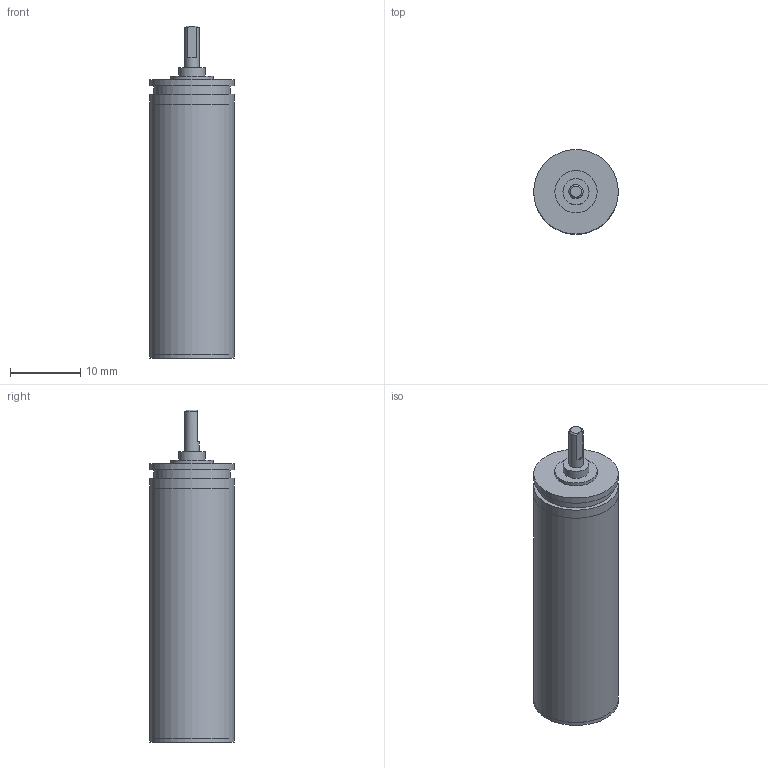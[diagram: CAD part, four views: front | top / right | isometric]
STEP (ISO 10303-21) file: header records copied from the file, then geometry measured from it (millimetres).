
FILE_DESCRIPTION(/* description */ (''),/* implementation_level */ '2;1');
FILE_NAME(/* name */ '12-3K_14.stp',/* time_stamp */ '2016-08-24T10:26:47+02:00',/* author */ ('DR. FRITZ FAULHABER GmbH & Co. KG'),/* organization */ ('DR. FRITZ FAULHABER GmbH & Co. KG'),/* preprocessor_version */ 'ST-DEVELOPER v16',/* originating_system */ 'SIEMENS PLM Software NX 10.0',/* authorisation */ '');
FILE_SCHEMA (('AUTOMOTIVE_DESIGN { 1 0 10303 214 3 1 1 1 }'));
Length unit declared in the file: millimetre
Products named in the file (1): H00000590_A
Bounding box: 12 x 12 x 47.1 mm (x, y, z)
Volume: 4416.7 mm3; surface area: 1877.5 mm2
Topology: 1 solids, 1 shells, 32 faces, 52 edges, 34 vertices
Faces by surface type: plane 16, cylinder 14, cone 2
Full cylindrical faces by diameter (mm): 2 x1, 2.48 x1, 2.6 x1, 3.7 x1, 5 x1, 6 x2, 10.88 x1, 11.99 x2, 12 x4
Entity records: 692 total; most frequent: DIRECTION 129, CARTESIAN_POINT 115, ORIENTED_EDGE 70, AXIS2_PLACEMENT_3D 63, EDGE_LOOP 59, FACE_BOUND 54, EDGE_CURVE 35, ADVANCED_FACE 32
